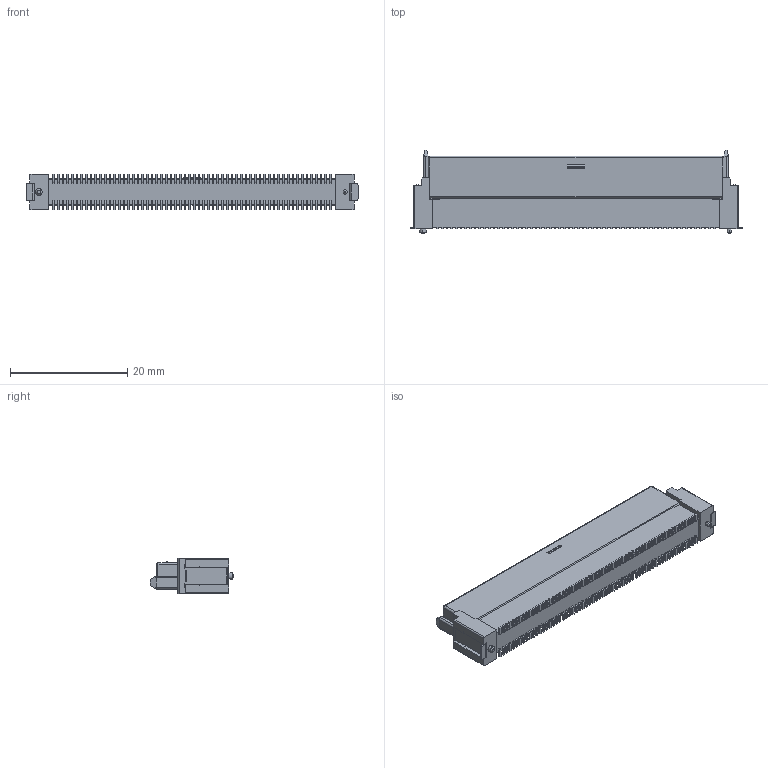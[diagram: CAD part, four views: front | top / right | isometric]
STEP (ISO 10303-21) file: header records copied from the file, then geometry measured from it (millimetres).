
FILE_DESCRIPTION (( 'STEP AP203' ), '1' );
FILE_NAME ('DFJ-RC120-S831124D(M)-FA.STEP', '2021-10-18T09:34:16', ( '' ), ( '' ), 'SwSTEP 2.0', 'SolidWorks 2018', '' );
FILE_SCHEMA (( 'CONFIG_CONTROL_DESIGN' ));
Products named in the file (1): DFJ-RC120-S831124D(M)-FA
Bounding box: 56.6 x 14.2 x 6 mm (x, y, z)
Volume: 2558.5 mm3; surface area: 2899.6 mm2
Topology: 1 solids, 1 shells, 2243 faces, 6325 edges, 4206 vertices
Faces by surface type: plane 1477, cylinder 759, cone 4, sphere 2, bspline 1
Entity records: 72013 total; most frequent: CARTESIAN_POINT 15740, ORIENTED_EDGE 12646, DIRECTION 10381, EDGE_CURVE 6323, VECTOR 4795, LINE 4795, VERTEX_POINT 4206, AXIS2_PLACEMENT_3D 2793
